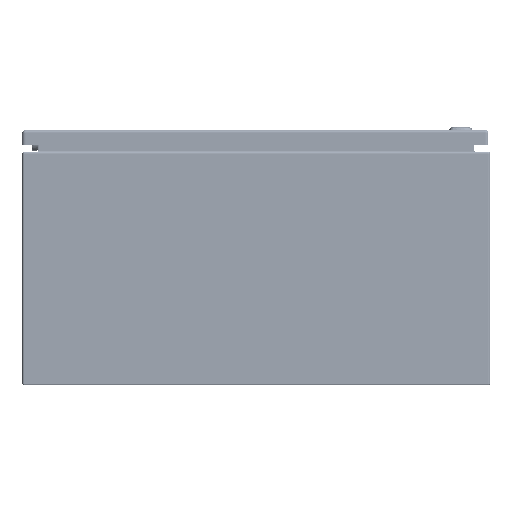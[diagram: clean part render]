
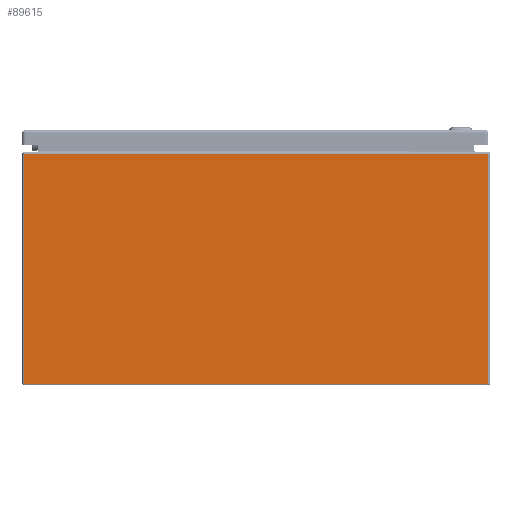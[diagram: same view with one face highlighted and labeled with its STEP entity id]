
A CAD part, front view. The second image highlights one B-rep face of the part: STEP entity #89615.
In plain terms, the highlighted planar face has unit normal (0, -1, 0).
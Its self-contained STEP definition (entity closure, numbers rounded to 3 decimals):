
#8130=LINE('',#125224,#14553);
#8133=LINE('',#125246,#14556);
#8134=LINE('',#125248,#14557);
#8135=LINE('',#125249,#14558);
#14553=VECTOR('',#103806,0.394);
#14556=VECTOR('',#103837,0.394);
#14557=VECTOR('',#103838,0.394);
#14558=VECTOR('',#103839,0.394);
#22293=FACE_OUTER_BOUND('',#27717,.T.);
#27717=EDGE_LOOP('',(#59696,#59697,#59698,#59699));
#36413=VERTEX_POINT('',#125213);
#36416=VERTEX_POINT('',#125223);
#36421=VERTEX_POINT('',#125245);
#36422=VERTEX_POINT('',#125247);
#45447=EDGE_CURVE('',#36413,#36416,#8130,.T.);
#45458=EDGE_CURVE('',#36421,#36413,#8133,.T.);
#45459=EDGE_CURVE('',#36421,#36422,#8134,.T.);
#45460=EDGE_CURVE('',#36416,#36422,#8135,.T.);
#59696=ORIENTED_EDGE('',*,*,#45447,.F.);
#59697=ORIENTED_EDGE('',*,*,#45458,.F.);
#59698=ORIENTED_EDGE('',*,*,#45459,.T.);
#59699=ORIENTED_EDGE('',*,*,#45460,.F.);
#87462=PLANE('',#96227);
#89615=ADVANCED_FACE('',(#22293),#87462,.T.);
#96227=AXIS2_PLACEMENT_3D('',#125244,#103835,#103836);
#103806=DIRECTION('',(1.,0.,0.));
#103835=DIRECTION('center_axis',(0.,-1.,0.));
#103836=DIRECTION('ref_axis',(-1.,0.,0.));
#103837=DIRECTION('',(0.,0.,1.));
#103838=DIRECTION('',(1.,0.,0.));
#103839=DIRECTION('',(0.,0.,-1.));
#125213=CARTESIAN_POINT('',(-11.901,-30.,11.901));
#125223=CARTESIAN_POINT('',(11.901,-30.,11.901));
#125224=CARTESIAN_POINT('',(0.025,-30.,11.901));
#125244=CARTESIAN_POINT('Origin',(12.,-30.,12.));
#125245=CARTESIAN_POINT('',(-11.901,-30.,0.099));
#125246=CARTESIAN_POINT('',(-11.901,-30.,6.));
#125247=CARTESIAN_POINT('',(11.901,-30.,0.099));
#125248=CARTESIAN_POINT('',(-5.951,-30.,0.099));
#125249=CARTESIAN_POINT('',(11.901,-30.,6.));
